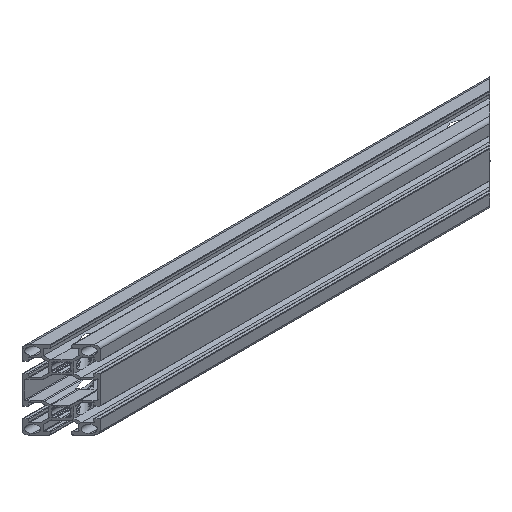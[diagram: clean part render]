
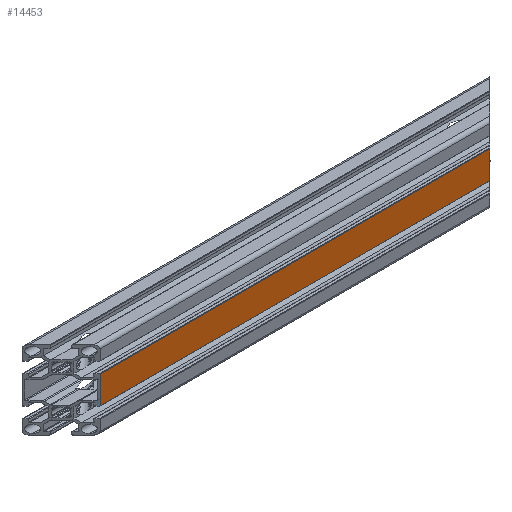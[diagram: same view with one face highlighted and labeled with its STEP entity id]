
A CAD part, isometric view. The second image highlights one B-rep face of the part: STEP entity #14453.
In plain terms, the highlighted planar face has unit normal (0, -1, 0).
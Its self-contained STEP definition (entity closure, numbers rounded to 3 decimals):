
#589 = VERTEX_POINT ( 'NONE', #12744 ) ;
#766 = VECTOR ( 'NONE', #2757, 1000. ) ;
#857 = EDGE_CURVE ( 'NONE', #14152, #589, #11272, .T. ) ;
#2387 = CARTESIAN_POINT ( 'NONE',  ( -180., -15., 10.6 ) ) ;
#2757 = DIRECTION ( 'NONE',  ( 0., 0., 1. ) ) ;
#2777 = FACE_OUTER_BOUND ( 'NONE', #4565, .T. ) ;
#2916 = EDGE_CURVE ( 'NONE', #14855, #589, #6289, .T. ) ;
#3183 = ORIENTED_EDGE ( 'NONE', *, *, #8710, .F. ) ;
#3478 = DIRECTION ( 'NONE',  ( 0., 0., 1. ) ) ;
#4235 = CARTESIAN_POINT ( 'NONE',  ( -180., -15., -10.6 ) ) ;
#4565 = EDGE_LOOP ( 'NONE', ( #14927, #16880, #7580, #3183 ) ) ;
#4751 = PLANE ( 'NONE',  #6755 ) ;
#4844 = EDGE_CURVE ( 'NONE', #7766, #14152, #5331, .T. ) ;
#4848 = CARTESIAN_POINT ( 'NONE',  ( -180., -15., -10.6 ) ) ;
#5331 = LINE ( 'NONE', #4235, #15481 ) ;
#5357 = VECTOR ( 'NONE', #3478, 1000. ) ;
#5660 = CARTESIAN_POINT ( 'NONE',  ( 150., -15., -30. ) ) ;
#6060 = CARTESIAN_POINT ( 'NONE',  ( 150., -15., -10.6 ) ) ;
#6289 = LINE ( 'NONE', #2387, #8083 ) ;
#6755 = AXIS2_PLACEMENT_3D ( 'NONE', #4848, #9002, #7477 ) ;
#7477 = DIRECTION ( 'NONE',  ( 0., 0., 1. ) ) ;
#7580 = ORIENTED_EDGE ( 'NONE', *, *, #2916, .F. ) ;
#7766 = VERTEX_POINT ( 'NONE', #12180 ) ;
#7921 = LINE ( 'NONE', #13438, #5357 ) ;
#8083 = VECTOR ( 'NONE', #14706, 1000. ) ;
#8710 = EDGE_CURVE ( 'NONE', #7766, #14855, #7921, .T. ) ;
#9002 = DIRECTION ( 'NONE',  ( 0., 1., 0. ) ) ;
#10180 = CARTESIAN_POINT ( 'NONE',  ( -150., -15., 10.6 ) ) ;
#10857 = DIRECTION ( 'NONE',  ( 1., 0., 0. ) ) ;
#11272 = LINE ( 'NONE', #5660, #766 ) ;
#12180 = CARTESIAN_POINT ( 'NONE',  ( -150., -15., -10.6 ) ) ;
#12744 = CARTESIAN_POINT ( 'NONE',  ( 150., -15., 10.6 ) ) ;
#13438 = CARTESIAN_POINT ( 'NONE',  ( -150., -15., -30. ) ) ;
#14152 = VERTEX_POINT ( 'NONE', #6060 ) ;
#14453 = ADVANCED_FACE ( 'NONE', ( #2777 ), #4751, .F. ) ;
#14706 = DIRECTION ( 'NONE',  ( 1., 0., 0. ) ) ;
#14855 = VERTEX_POINT ( 'NONE', #10180 ) ;
#14927 = ORIENTED_EDGE ( 'NONE', *, *, #4844, .T. ) ;
#15481 = VECTOR ( 'NONE', #10857, 1000. ) ;
#16880 = ORIENTED_EDGE ( 'NONE', *, *, #857, .T. ) ;
